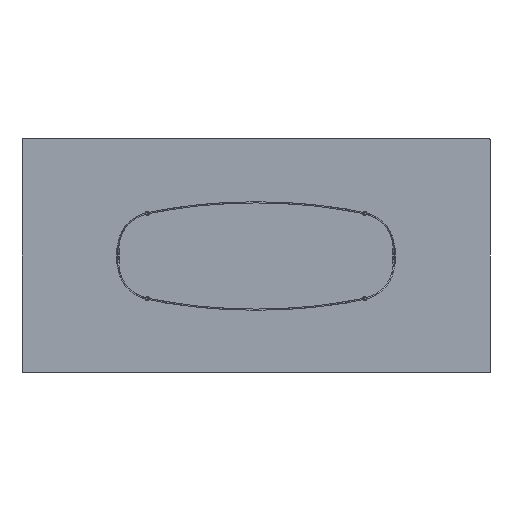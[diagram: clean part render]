
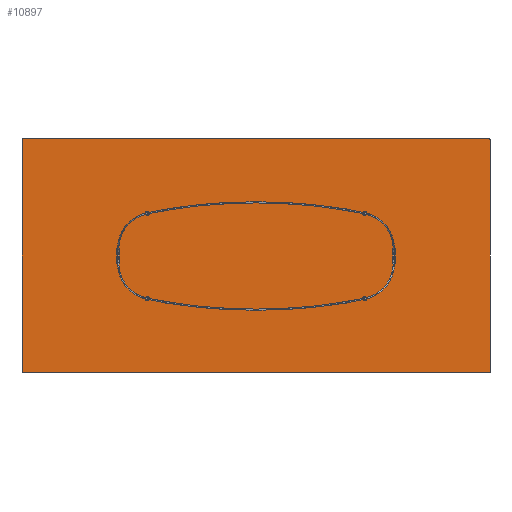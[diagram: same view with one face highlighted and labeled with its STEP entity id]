
A CAD part, front view. The second image highlights one B-rep face of the part: STEP entity #10897.
In plain terms, the highlighted planar face has unit normal (0, -1, 0).
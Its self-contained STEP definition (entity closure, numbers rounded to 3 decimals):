
#373 = LINE ( 'NONE', #5371, #13292 ) ;
#530 = CARTESIAN_POINT ( 'NONE',  ( -1200., 0., -595. ) ) ;
#745 = LINE ( 'NONE', #11134, #1934 ) ;
#1088 = DIRECTION ( 'NONE',  ( 0., -1., 0. ) ) ;
#1136 = CIRCLE ( 'NONE', #15289, 5. ) ;
#1234 = VERTEX_POINT ( 'NONE', #2220 ) ;
#1934 = VECTOR ( 'NONE', #5915, 1000. ) ;
#2220 = CARTESIAN_POINT ( 'NONE',  ( -1195., 0., 600. ) ) ;
#2275 = EDGE_CURVE ( 'NONE', #8609, #5299, #373, .T. ) ;
#2300 = DIRECTION ( 'NONE',  ( 0., -1., 0. ) ) ;
#2975 = AXIS2_PLACEMENT_3D ( 'NONE', #16415, #4735, #9938 ) ;
#2987 = CARTESIAN_POINT ( 'NONE',  ( -1200., 0., 595. ) ) ;
#3336 = CARTESIAN_POINT ( 'NONE',  ( 0., 0., 0. ) ) ;
#3583 = ORIENTED_EDGE ( 'NONE', *, *, #14565, .F. ) ;
#4105 = ORIENTED_EDGE ( 'NONE', *, *, #8638, .T. ) ;
#4415 = EDGE_LOOP ( 'NONE', ( #14606, #10075, #9120, #4105, #13665, #8904, #3583, #16461 ) ) ;
#4735 = DIRECTION ( 'NONE',  ( 0., -1., 0. ) ) ;
#5240 = VERTEX_POINT ( 'NONE', #5467 ) ;
#5271 = AXIS2_PLACEMENT_3D ( 'NONE', #11399, #1088, #8907 ) ;
#5299 = VERTEX_POINT ( 'NONE', #10848 ) ;
#5371 = CARTESIAN_POINT ( 'NONE',  ( 1200., 0., -600. ) ) ;
#5467 = CARTESIAN_POINT ( 'NONE',  ( 1195., 0., 600. ) ) ;
#5704 = VECTOR ( 'NONE', #8577, 1000. ) ;
#5915 = DIRECTION ( 'NONE',  ( -1., 0., 0. ) ) ;
#7341 = VECTOR ( 'NONE', #9593, 1000. ) ;
#7618 = DIRECTION ( 'NONE',  ( 0., -1., 0. ) ) ;
#8155 = CARTESIAN_POINT ( 'NONE',  ( -1195., 0., -600. ) ) ;
#8229 = LINE ( 'NONE', #12427, #5704 ) ;
#8577 = DIRECTION ( 'NONE',  ( 0., 0., 1. ) ) ;
#8609 = VERTEX_POINT ( 'NONE', #9847 ) ;
#8613 = DIRECTION ( 'NONE',  ( 0., 0., 1. ) ) ;
#8638 = EDGE_CURVE ( 'NONE', #1234, #11623, #11988, .T. ) ;
#8837 = EDGE_CURVE ( 'NONE', #8609, #5240, #15241, .T. ) ;
#8904 = ORIENTED_EDGE ( 'NONE', *, *, #11347, .T. ) ;
#8907 = DIRECTION ( 'NONE',  ( 0., 0., 1. ) ) ;
#9120 = ORIENTED_EDGE ( 'NONE', *, *, #12601, .F. ) ;
#9547 = DIRECTION ( 'NONE',  ( 0., 0., 1. ) ) ;
#9593 = DIRECTION ( 'NONE',  ( 1., 0., 0. ) ) ;
#9847 = CARTESIAN_POINT ( 'NONE',  ( 1200., 0., 595. ) ) ;
#9897 = FACE_OUTER_BOUND ( 'NONE', #4415, .T. ) ;
#9938 = DIRECTION ( 'NONE',  ( 0., 0., 1. ) ) ;
#10075 = ORIENTED_EDGE ( 'NONE', *, *, #8837, .T. ) ;
#10406 = VERTEX_POINT ( 'NONE', #8155 ) ;
#10504 = DIRECTION ( 'NONE',  ( 0., 0., -1. ) ) ;
#10817 = VERTEX_POINT ( 'NONE', #530 ) ;
#10848 = CARTESIAN_POINT ( 'NONE',  ( 1200., 0., -595. ) ) ;
#10897 = ADVANCED_FACE ( 'NONE', ( #9897 ), #15022, .F. ) ;
#11010 = CARTESIAN_POINT ( 'NONE',  ( 1195., 0., -595. ) ) ;
#11054 = CARTESIAN_POINT ( 'NONE',  ( -1200., 0., 600. ) ) ;
#11134 = CARTESIAN_POINT ( 'NONE',  ( -1200., 0., -600. ) ) ;
#11347 = EDGE_CURVE ( 'NONE', #10817, #10406, #12799, .T. ) ;
#11399 = CARTESIAN_POINT ( 'NONE',  ( -1195., 0., 595. ) ) ;
#11623 = VERTEX_POINT ( 'NONE', #2987 ) ;
#11988 = CIRCLE ( 'NONE', #5271, 5. ) ;
#12079 = LINE ( 'NONE', #11054, #7341 ) ;
#12427 = CARTESIAN_POINT ( 'NONE',  ( -1200., 0., -600. ) ) ;
#12601 = EDGE_CURVE ( 'NONE', #1234, #5240, #12079, .T. ) ;
#12799 = CIRCLE ( 'NONE', #2975, 5. ) ;
#13292 = VECTOR ( 'NONE', #10504, 1000. ) ;
#13302 = EDGE_CURVE ( 'NONE', #10817, #11623, #8229, .T. ) ;
#13578 = AXIS2_PLACEMENT_3D ( 'NONE', #15473, #7618, #14195 ) ;
#13591 = AXIS2_PLACEMENT_3D ( 'NONE', #3336, #13821, #8613 ) ;
#13665 = ORIENTED_EDGE ( 'NONE', *, *, #13302, .F. ) ;
#13821 = DIRECTION ( 'NONE',  ( 0., 1., 0. ) ) ;
#14195 = DIRECTION ( 'NONE',  ( 0., 0., 1. ) ) ;
#14565 = EDGE_CURVE ( 'NONE', #16564, #10406, #745, .T. ) ;
#14606 = ORIENTED_EDGE ( 'NONE', *, *, #2275, .F. ) ;
#15022 = PLANE ( 'NONE',  #13591 ) ;
#15241 = CIRCLE ( 'NONE', #13578, 5. ) ;
#15289 = AXIS2_PLACEMENT_3D ( 'NONE', #11010, #2300, #9547 ) ;
#15473 = CARTESIAN_POINT ( 'NONE',  ( 1195., 0., 595. ) ) ;
#15694 = EDGE_CURVE ( 'NONE', #16564, #5299, #1136, .T. ) ;
#16210 = CARTESIAN_POINT ( 'NONE',  ( 1195., 0., -600. ) ) ;
#16415 = CARTESIAN_POINT ( 'NONE',  ( -1195., 0., -595. ) ) ;
#16461 = ORIENTED_EDGE ( 'NONE', *, *, #15694, .T. ) ;
#16564 = VERTEX_POINT ( 'NONE', #16210 ) ;
